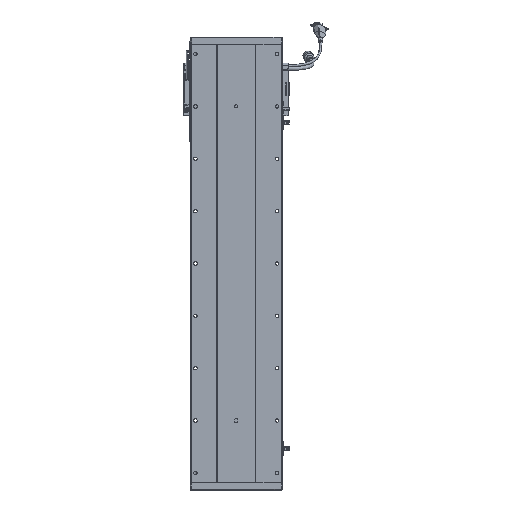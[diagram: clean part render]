
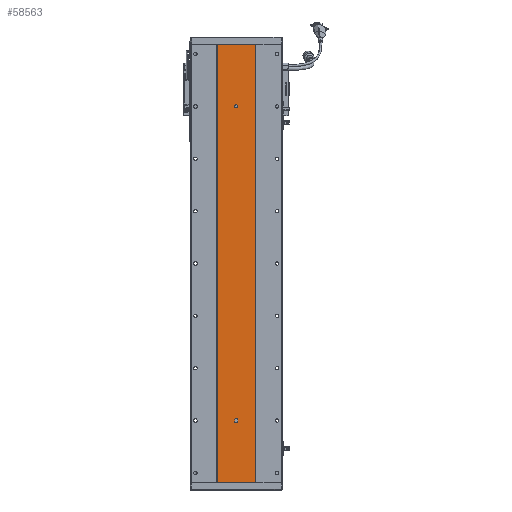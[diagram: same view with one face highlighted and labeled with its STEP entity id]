
A CAD part, front view. The second image highlights one B-rep face of the part: STEP entity #58563.
In plain terms, the highlighted planar face has unit normal (0, -1, 0).
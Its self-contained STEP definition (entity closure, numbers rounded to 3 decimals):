
#492 = DIRECTION ( 'NONE',  ( 0., -1., 0. ) ) ;
#970 = FACE_OUTER_BOUND ( 'NONE', #25109, .T. ) ;
#1515 = LINE ( 'NONE', #74124, #67110 ) ;
#4511 = CARTESIAN_POINT ( 'NONE',  ( 3280.529, 1415.701, 715.5 ) ) ;
#4598 = AXIS2_PLACEMENT_3D ( 'NONE', #30348, #49485, #56104 ) ;
#5712 = CARTESIAN_POINT ( 'NONE',  ( 3244.748, 1415.701, 837. ) ) ;
#6029 = VERTEX_POINT ( 'NONE', #35403 ) ;
#6098 = ORIENTED_EDGE ( 'NONE', *, *, #69626, .F. ) ;
#7187 = CIRCLE ( 'NONE', #55999, 3. ) ;
#7210 = CARTESIAN_POINT ( 'NONE',  ( 3280.529, 1415.701, 120. ) ) ;
#9046 = CARTESIAN_POINT ( 'NONE',  ( 3277.529, 1415.701, 120. ) ) ;
#9459 = VECTOR ( 'NONE', #35745, 1000. ) ;
#10075 = ORIENTED_EDGE ( 'NONE', *, *, #56072, .F. ) ;
#10134 = VERTEX_POINT ( 'NONE', #38333 ) ;
#10170 = DIRECTION ( 'NONE',  ( 0., -1., 0. ) ) ;
#10252 = DIRECTION ( 'NONE',  ( 0., 0., -1. ) ) ;
#10750 = VERTEX_POINT ( 'NONE', #25740 ) ;
#11024 = CARTESIAN_POINT ( 'NONE',  ( 3280.529, 1415.701, 117. ) ) ;
#13149 = AXIS2_PLACEMENT_3D ( 'NONE', #55511, #29481, #61932 ) ;
#13980 = VECTOR ( 'NONE', #81967, 1000. ) ;
#17920 = LINE ( 'NONE', #61035, #19939 ) ;
#19649 = ORIENTED_EDGE ( 'NONE', *, *, #78382, .T. ) ;
#19939 = VECTOR ( 'NONE', #10252, 1000. ) ;
#20297 = VERTEX_POINT ( 'NONE', #28176 ) ;
#20413 = VERTEX_POINT ( 'NONE', #4511 ) ;
#21879 = CARTESIAN_POINT ( 'NONE',  ( 3280.529, 1415.701, 718.5 ) ) ;
#22425 = ORIENTED_EDGE ( 'NONE', *, *, #23919, .F. ) ;
#23375 = EDGE_CURVE ( 'NONE', #10134, #42094, #76408, .T. ) ;
#23919 = EDGE_CURVE ( 'NONE', #29845, #20297, #34751, .T. ) ;
#25109 = EDGE_LOOP ( 'NONE', ( #60607, #22425, #25687, #19649 ) ) ;
#25405 = VERTEX_POINT ( 'NONE', #68542 ) ;
#25687 = ORIENTED_EDGE ( 'NONE', *, *, #66075, .F. ) ;
#25740 = CARTESIAN_POINT ( 'NONE',  ( 3283.529, 1415.701, 117. ) ) ;
#26060 = ORIENTED_EDGE ( 'NONE', *, *, #34008, .F. ) ;
#26384 = CARTESIAN_POINT ( 'NONE',  ( 3244.748, 1415.701, 0. ) ) ;
#28176 = CARTESIAN_POINT ( 'NONE',  ( 3316.311, 1415.701, 0. ) ) ;
#29481 = DIRECTION ( 'NONE',  ( 0., 1., 0. ) ) ;
#29708 = DIRECTION ( 'NONE',  ( 0., 0., -1. ) ) ;
#29845 = VERTEX_POINT ( 'NONE', #53456 ) ;
#30348 = CARTESIAN_POINT ( 'NONE',  ( 3280.529, 1415.701, 718.5 ) ) ;
#31285 = EDGE_CURVE ( 'NONE', #25405, #20413, #35959, .T. ) ;
#34008 = EDGE_CURVE ( 'NONE', #20413, #25405, #59212, .T. ) ;
#34751 = LINE ( 'NONE', #35819, #36713 ) ;
#35403 = CARTESIAN_POINT ( 'NONE',  ( 3283.529, 1415.701, 120. ) ) ;
#35724 = DIRECTION ( 'NONE',  ( 0., 0., -1. ) ) ;
#35745 = DIRECTION ( 'NONE',  ( 0., 0., 1. ) ) ;
#35819 = CARTESIAN_POINT ( 'NONE',  ( 3316.311, 1415.701, 837. ) ) ;
#35959 = CIRCLE ( 'NONE', #54461, 3. ) ;
#36713 = VECTOR ( 'NONE', #29708, 1000. ) ;
#37463 = EDGE_CURVE ( 'NONE', #47524, #20297, #48970, .T. ) ;
#38306 = DIRECTION ( 'NONE',  ( 0., 0., -1. ) ) ;
#38333 = CARTESIAN_POINT ( 'NONE',  ( 3277.529, 1415.701, 117. ) ) ;
#41052 = EDGE_CURVE ( 'NONE', #42094, #10750, #70247, .T. ) ;
#41184 = VERTEX_POINT ( 'NONE', #5712 ) ;
#42094 = VERTEX_POINT ( 'NONE', #60561 ) ;
#42690 = DIRECTION ( 'NONE',  ( 0., 0., -1. ) ) ;
#42954 = VERTEX_POINT ( 'NONE', #9046 ) ;
#44328 = CARTESIAN_POINT ( 'NONE',  ( 3244.748, 1415.701, 0. ) ) ;
#47524 = VERTEX_POINT ( 'NONE', #44328 ) ;
#47695 = FACE_BOUND ( 'NONE', #62963, .T. ) ;
#48063 = PLANE ( 'NONE',  #13149 ) ;
#48970 = LINE ( 'NONE', #26384, #49918 ) ;
#49485 = DIRECTION ( 'NONE',  ( 0., -1., 0. ) ) ;
#49918 = VECTOR ( 'NONE', #63872, 1000. ) ;
#50243 = EDGE_CURVE ( 'NONE', #42954, #10134, #17920, .T. ) ;
#52672 = ORIENTED_EDGE ( 'NONE', *, *, #31285, .F. ) ;
#53456 = CARTESIAN_POINT ( 'NONE',  ( 3316.311, 1415.701, 837. ) ) ;
#54461 = AXIS2_PLACEMENT_3D ( 'NONE', #21879, #10170, #35724 ) ;
#54588 = DIRECTION ( 'NONE',  ( 0., -1., 0. ) ) ;
#55511 = CARTESIAN_POINT ( 'NONE',  ( 3244.748, 1415.701, 837. ) ) ;
#55999 = AXIS2_PLACEMENT_3D ( 'NONE', #7210, #492, #38306 ) ;
#56072 = EDGE_CURVE ( 'NONE', #6029, #42954, #7187, .T. ) ;
#56104 = DIRECTION ( 'NONE',  ( 0., 0., -1. ) ) ;
#56171 = CARTESIAN_POINT ( 'NONE',  ( 3244.748, 1415.701, 837. ) ) ;
#56565 = FACE_BOUND ( 'NONE', #69590, .T. ) ;
#57359 = AXIS2_PLACEMENT_3D ( 'NONE', #11024, #54588, #42690 ) ;
#58563 = ADVANCED_FACE ( 'NONE', ( #47695, #56565, #970 ), #48063, .F. ) ;
#59212 = CIRCLE ( 'NONE', #4598, 3. ) ;
#60027 = ORIENTED_EDGE ( 'NONE', *, *, #50243, .F. ) ;
#60561 = CARTESIAN_POINT ( 'NONE',  ( 3280.529, 1415.701, 114. ) ) ;
#60607 = ORIENTED_EDGE ( 'NONE', *, *, #37463, .T. ) ;
#60650 = LINE ( 'NONE', #56171, #13980 ) ;
#60917 = AXIS2_PLACEMENT_3D ( 'NONE', #69168, #75236, #81360 ) ;
#61035 = CARTESIAN_POINT ( 'NONE',  ( 3277.529, 1415.701, 120. ) ) ;
#61932 = DIRECTION ( 'NONE',  ( 0., 0., 1. ) ) ;
#62963 = EDGE_LOOP ( 'NONE', ( #68984, #60027, #10075, #6098, #71897 ) ) ;
#63872 = DIRECTION ( 'NONE',  ( 1., 0., 0. ) ) ;
#64108 = LINE ( 'NONE', #79267, #9459 ) ;
#66075 = EDGE_CURVE ( 'NONE', #41184, #29845, #60650, .T. ) ;
#67110 = VECTOR ( 'NONE', #68064, 1000. ) ;
#68064 = DIRECTION ( 'NONE',  ( 0., 0., -1. ) ) ;
#68542 = CARTESIAN_POINT ( 'NONE',  ( 3280.529, 1415.701, 721.5 ) ) ;
#68984 = ORIENTED_EDGE ( 'NONE', *, *, #23375, .F. ) ;
#69168 = CARTESIAN_POINT ( 'NONE',  ( 3280.529, 1415.701, 117. ) ) ;
#69590 = EDGE_LOOP ( 'NONE', ( #26060, #52672 ) ) ;
#69626 = EDGE_CURVE ( 'NONE', #10750, #6029, #64108, .T. ) ;
#70247 = CIRCLE ( 'NONE', #57359, 3. ) ;
#71897 = ORIENTED_EDGE ( 'NONE', *, *, #41052, .F. ) ;
#74124 = CARTESIAN_POINT ( 'NONE',  ( 3244.748, 1415.701, 837. ) ) ;
#75236 = DIRECTION ( 'NONE',  ( 0., -1., 0. ) ) ;
#76408 = CIRCLE ( 'NONE', #60917, 3. ) ;
#78382 = EDGE_CURVE ( 'NONE', #41184, #47524, #1515, .T. ) ;
#79267 = CARTESIAN_POINT ( 'NONE',  ( 3283.529, 1415.701, 120. ) ) ;
#81360 = DIRECTION ( 'NONE',  ( 0., 0., -1. ) ) ;
#81967 = DIRECTION ( 'NONE',  ( 1., 0., 0. ) ) ;
